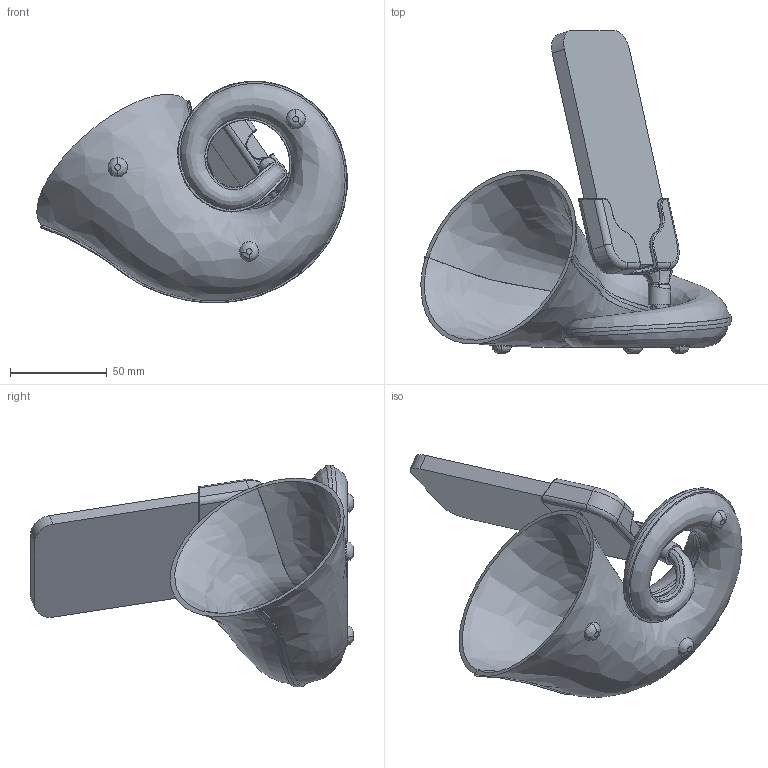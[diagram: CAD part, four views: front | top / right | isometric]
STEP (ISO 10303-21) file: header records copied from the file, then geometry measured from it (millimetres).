
FILE_DESCRIPTION((''),'2;1');
FILE_NAME('PRT0001','2017-04-01T',('dswett'),('iRobot'),'CREO PARAMETRIC BY PTC INC, 2016050','CREO PARAMETRIC BY PTC INC, 2016050','');
FILE_SCHEMA(('CONFIG_CONTROL_DESIGN'));
Length unit declared in the file: millimetre
Products named in the file (1): PRT0001
Bounding box: 160.24 x 166.78 x 114.54 mm (x, y, z)
Surface area: 103427.2 mm2 (no closed solid volume)
Topology: 0 solids, 4 shells, 434 faces, 1146 edges, 722 vertices
Faces by surface type: bspline 158, cylinder 118, plane 86, torus 42, cone 22, extrusion 8
Entity records: 31344 total; most frequent: CARTESIAN_POINT 21883, ORIENTED_EDGE 2292, DIRECTION 1505, EDGE_CURVE 1146, VERTEX_POINT 722, AXIS2_PLACEMENT_3D 582, B_SPLINE_CURVE_WITH_KNOTS 507, EDGE_LOOP 440
